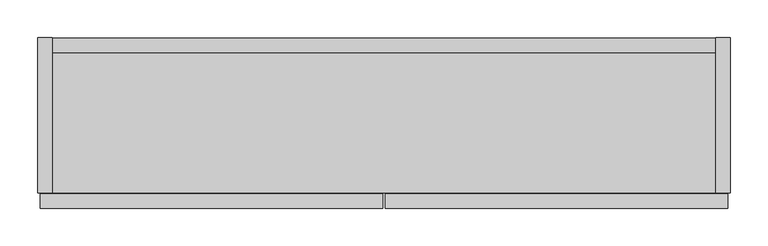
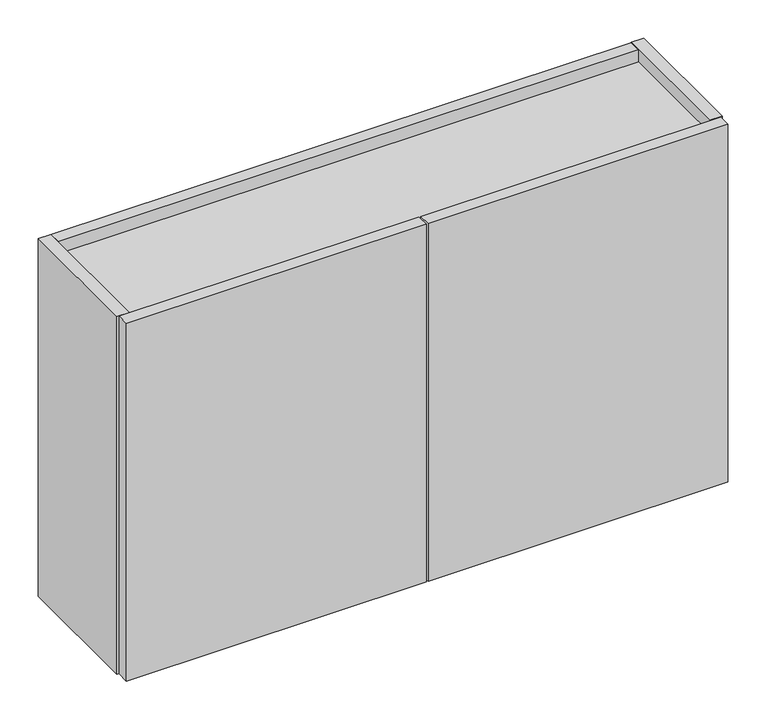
"""IFC4 building model written with IfcOpenShell, lengths in millimetres: furniture geometry, Geiger_GeigerOneCasegoods_UtilityCabinetForUseWithCredenzaDeskAccepts0Legs : Vertical Veneer 36Wx 8.875Dx 22.5H."""

from ifc_helpers import new_model, si_unit, frame, origin, place, context, project, spatial, polyline, outline, extrude, source, transform, mapped, element, save


def furniture_e45f25e7(model_context):
    return source(origin(), model_context, "Body", "SweptSolid", [
        extrude(outline(polyline([(19.0, -205.425), (0.0, -205.425), (0.0, 0.0), (19.0, 0.0), (19.0, -205.425)])), frame((0.0, 0.0, 12.7), z_axis=(0.0, 0.0, 1.0), x_axis=(1.0, 0.0, 0.0)), (0.0, 0.0, 1.0), 571.5),
        extrude(outline(polyline([(914.4, -205.425), (895.4, -205.425), (895.4, 0.0), (914.4, 0.0), (914.4, -205.425)])), frame((0.0, 0.0, 12.7), z_axis=(0.0, 0.0, 1.0), x_axis=(1.0, 0.0, 0.0)), (0.0, 0.0, 1.0), 571.5),
        extrude(outline(polyline([(455.7, -225.425), (3.0, -225.425), (3.0, -206.425), (455.7, -206.425), (455.7, -225.425)])), frame((0.0, 0.0, 12.7), z_axis=(0.0, 0.0, 1.0), x_axis=(1.0, 0.0, 0.0)), (0.0, 0.0, 1.0), 571.5),
        extrude(outline(polyline([(911.4, -225.425), (458.7, -225.425), (458.7, -206.425), (911.4, -206.425), (911.4, -225.425)])), frame((0.0, 0.0, 12.7), z_axis=(0.0, 0.0, 1.0), x_axis=(1.0, 0.0, 0.0)), (0.0, 0.0, 1.0), 571.5),
        extrude(outline(polyline([(895.4, -0.5), (895.4, -19.5), (19.0, -19.5), (19.0, -0.5), (895.4, -0.5)])), frame((0.0, 0.0, 29.0), z_axis=(0.0, 0.0, 1.0), x_axis=(1.0, 0.0, 0.0)), (0.0, 0.0, 1.0), 555.2),
        extrude(outline(polyline([(895.4, -185.925), (895.4, -204.925), (19.0, -204.925), (19.0, -185.925), (895.4, -185.925)])), frame((0.0, 0.0, 29.0), z_axis=(0.0, 0.0, 1.0), x_axis=(1.0, 0.0, 0.0)), (0.0, 0.0, 1.0), 127.0),
        extrude(outline(polyline([(895.4, -19.5), (895.4, -205.425), (19.0, -205.425), (19.0, -19.5), (895.4, -19.5)])), frame((0.0, 0.0, 546.2), z_axis=(0.0, 0.0, 1.0), x_axis=(1.0, 0.0, 0.0)), (0.0, 0.0, 1.0), 19.0),
    ])


if __name__ == "__main__":
    model = new_model("IFC4")
    model_context = context("Model", 3, world=origin())
    ifc_project = project(units=[si_unit("LENGTHUNIT", "METRE", prefix="MILLI")], contexts=[model_context])
    site = spatial("IfcSite", under=ifc_project)
    building = spatial("IfcBuilding", under=site)
    placement = place(None, origin())
    furniture_shape = furniture_e45f25e7(model_context)
    element("IfcFurniture", 1, ObjectType="Geiger_GeigerOneCasegoods_UtilityCabinetForUseWithCredenzaDeskAccepts0Legs : Vertical Veneer 36Wx 8.875Dx 22.5H", at=placement, inside=building, context=model_context, shape_type="MappedRepresentation", body=[
        mapped(furniture_shape, transform((0.0, 0.0, 0.0), x_axis=(1.0, 0.0, 0.0), y_axis=(0.0, 1.0, 0.0), z_axis=(0.0, 0.0, 1.0))),
    ])
    save(model, "model.ifc")
